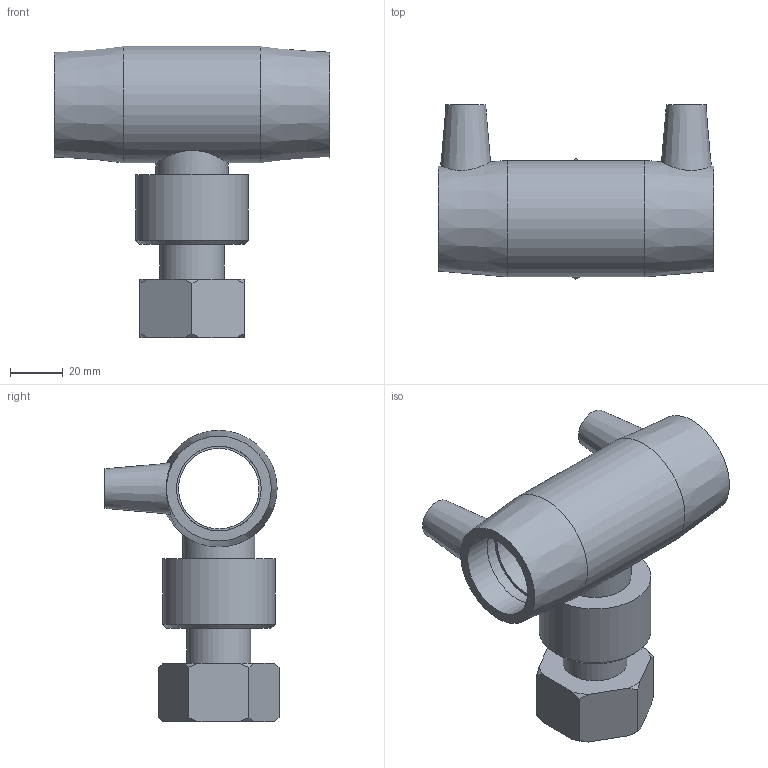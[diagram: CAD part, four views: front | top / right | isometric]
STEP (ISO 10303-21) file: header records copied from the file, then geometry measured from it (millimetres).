
FILE_DESCRIPTION(/* description */ ('PLASSON FREE NUT TRANSITION TEE 32-1"'),/* implementation_level */ '2;1');
FILE_NAME(/* name */ 'C:\Dropbox\KIMPROJECTS-Inventor\99-16-3568-Processing\ElectroFusion Fittings\31.03.19\494404\494404032010.ipt.stp',/* time_stamp */ '2019-03-31T18:57:58+03:00',/* author */ ('KIM'),/* organization */ (''),/* preprocessor_version */ 'ST-DEVELOPER v15.6',/* originating_system */ 'Autodesk Inventor 2015',/* authorisation */ '');
FILE_SCHEMA (('AUTOMOTIVE_DESIGN { 1 0 10303 214 3 1 1 }'));
Length unit declared in the file: millimetre
Products named in the file (1): 494404032010
Bounding box: 104 x 65.72 x 110 mm (x, y, z)
Volume: 128472 mm3; surface area: 44787.8 mm2
Topology: 1 solids, 1 shells, 64 faces, 141 edges, 93 vertices
Faces by surface type: plane 25, cylinder 20, cone 19
Full cylindrical faces by diameter (mm): 4.8 x2, 9.6 x2, 18.175 x1, 21.204 x1, 24.233 x2, 27.262 x1, 30.291 x1, 30.4 x1, 32 x4, 42.407 x1, 44 x1
Entity records: 1724 total; most frequent: CARTESIAN_POINT 485, DIRECTION 254, ORIENTED_EDGE 210, AXIS2_PLACEMENT_3D 116, EDGE_LOOP 106, EDGE_CURVE 105, VERTEX_POINT 83, FACE_OUTER_BOUND 64
